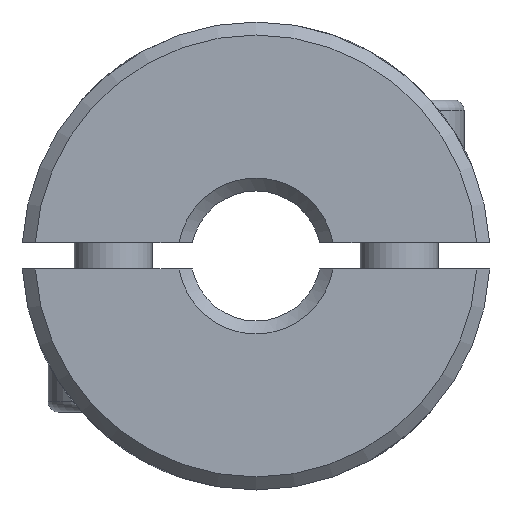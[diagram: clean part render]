
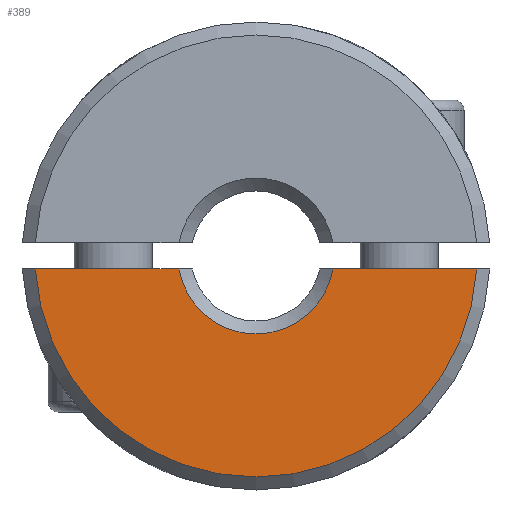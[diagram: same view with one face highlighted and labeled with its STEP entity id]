
A CAD part, front view. The second image highlights one B-rep face of the part: STEP entity #389.
In plain terms, the highlighted planar face has unit normal (0, -1, 0).
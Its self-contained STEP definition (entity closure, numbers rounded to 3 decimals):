
#389 = ADVANCED_FACE( '', ( #761 ), #762, .F. );
#761 = FACE_OUTER_BOUND( '', #1097, .T. );
#762 = PLANE( '', #1098 );
#1097 = EDGE_LOOP( '', ( #1734, #1735, #1736, #1737 ) );
#1098 = AXIS2_PLACEMENT_3D( '', #1738, #1739, #1740 );
#1734 = ORIENTED_EDGE( '', *, *, #1927, .F. );
#1735 = ORIENTED_EDGE( '', *, *, #1835, .T. );
#1736 = ORIENTED_EDGE( '', *, *, #1839, .F. );
#1737 = ORIENTED_EDGE( '', *, *, #2017, .T. );
#1738 = CARTESIAN_POINT( '', ( 0., -30., 0. ) );
#1739 = DIRECTION( '', ( 0., 1., 0. ) );
#1740 = DIRECTION( '', ( 0., 0., 1. ) );
#1835 = EDGE_CURVE( '', #2115, #2112, #2116, .F. );
#1839 = EDGE_CURVE( '', #2121, #2112, #2122, .T. );
#1927 = EDGE_CURVE( '', #2115, #2263, #2264, .T. );
#2017 = EDGE_CURVE( '', #2121, #2263, #2383, .T. );
#2112 = VERTEX_POINT( '', #2552 );
#2115 = VERTEX_POINT( '', #2558 );
#2116 = CIRCLE( '', #2559, 8.5 );
#2121 = VERTEX_POINT( '', #2567 );
#2122 = LINE( '', #2568, #2569 );
#2263 = VERTEX_POINT( '', #3076 );
#2264 = LINE( '', #3077, #3078 );
#2383 = CIRCLE( '', #3658, 3. );
#2552 = CARTESIAN_POINT( '', ( 8.485, -30., -0.5 ) );
#2558 = CARTESIAN_POINT( '', ( -8.485, -30., -0.5 ) );
#2559 = AXIS2_PLACEMENT_3D( '', #3746, #3747, #3748 );
#2567 = CARTESIAN_POINT( '', ( 2.958, -30., -0.5 ) );
#2568 = CARTESIAN_POINT( '', ( 0., -30., -0.5 ) );
#2569 = VECTOR( '', #3752, 1000. );
#3076 = CARTESIAN_POINT( '', ( -2.958, -30., -0.5 ) );
#3077 = CARTESIAN_POINT( '', ( 0., -30., -0.5 ) );
#3078 = VECTOR( '', #3870, 1000. );
#3658 = AXIS2_PLACEMENT_3D( '', #3952, #3953, #3954 );
#3746 = CARTESIAN_POINT( '', ( 0., -30., 0. ) );
#3747 = DIRECTION( '', ( 0., 1., 0. ) );
#3748 = DIRECTION( '', ( 0., 0., 1. ) );
#3752 = DIRECTION( '', ( 1., 0., 0. ) );
#3870 = DIRECTION( '', ( 1., 0., 0. ) );
#3952 = CARTESIAN_POINT( '', ( 0., -30., 0. ) );
#3953 = DIRECTION( '', ( 0., 1., 0. ) );
#3954 = DIRECTION( '', ( 0., 0., 1. ) );
